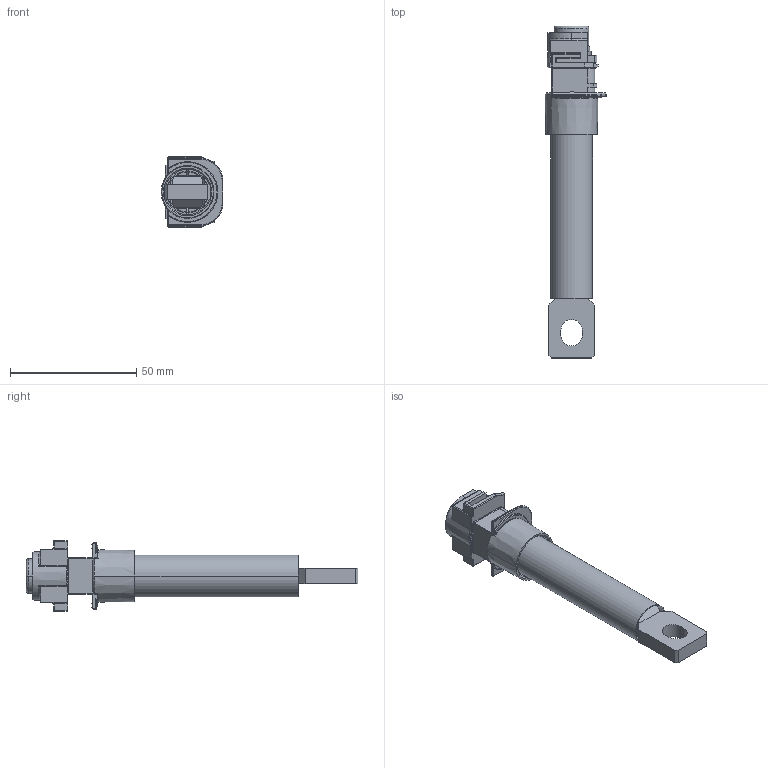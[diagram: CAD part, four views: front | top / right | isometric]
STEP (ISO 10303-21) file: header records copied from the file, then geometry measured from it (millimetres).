
FILE_DESCRIPTION((''),'2;1');
FILE_NAME('U2_21_5_L_REAR_CONDUCTOR_ASSY_ASM','2018-06-04T',('HHI'),(''),'PRO/ENGINEER BY PARAMETRIC TECHNOLOGY CORPORATION, 2012453','PRO/ENGINEER BY PARAMETRIC TECHNOLOGY CORPORATION, 2012453','');
FILE_SCHEMA(('CONFIG_CONTROL_DESIGN'));
Length unit declared in the file: millimetre
Products named in the file (9): UP2_21_5_REAR_CONDUCTOR_CASE; U2_REAR_CONDUCTOR_PLATE; U2_LONG_REAR_CONDUCTOR; M8_L20_HEX_SOCKET_BOLT; D8_ASSY2_SPRING_WASHER; D8_SMALL_PLAIN_WASHER; M8_L20_P_SW_HEX_SOCKET_BOLT_ASM; U2_RCT_INSULATION_TUBE; U2_21_5_L_REAR_CONDUCTOR_ASSY_ASM
Assembly tree (8 placements, depth 3):
  U2_21_5_L_REAR_CONDUCTOR_ASSY_ASM
    UP2_21_5_REAR_CONDUCTOR_CASE
    U2_REAR_CONDUCTOR_PLATE
    U2_LONG_REAR_CONDUCTOR
    M8_L20_P_SW_HEX_SOCKET_BOLT_ASM
      M8_L20_HEX_SOCKET_BOLT
      D8_ASSY2_SPRING_WASHER
      D8_SMALL_PLAIN_WASHER
    U2_RCT_INSULATION_TUBE
Bounding box: 24.49 x 131.6 x 28 mm (x, y, z)
Volume: 23401 mm3; surface area: 22251.4 mm2
Topology: 7 solids, 7 shells, 349 faces, 866 edges, 531 vertices
Faces by surface type: plane 162, cylinder 106, torus 23, cone 22, sphere 20, bspline 16
Entity records: 11105 total; most frequent: CARTESIAN_POINT 2647, DIRECTION 1757, ORIENTED_EDGE 1724, EDGE_CURVE 862, AXIS2_PLACEMENT_3D 622, VERTEX_POINT 531, VECTOR 513, LINE 513
